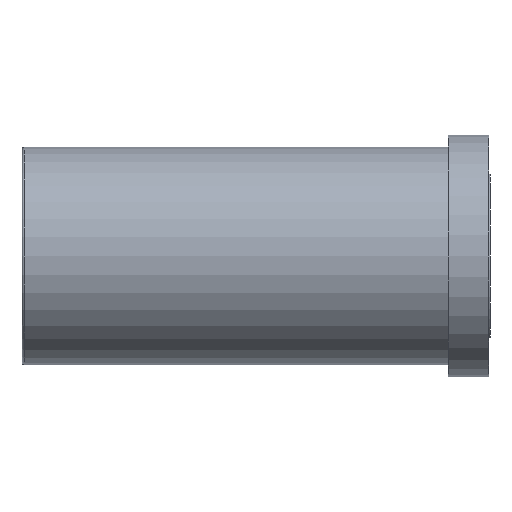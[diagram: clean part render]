
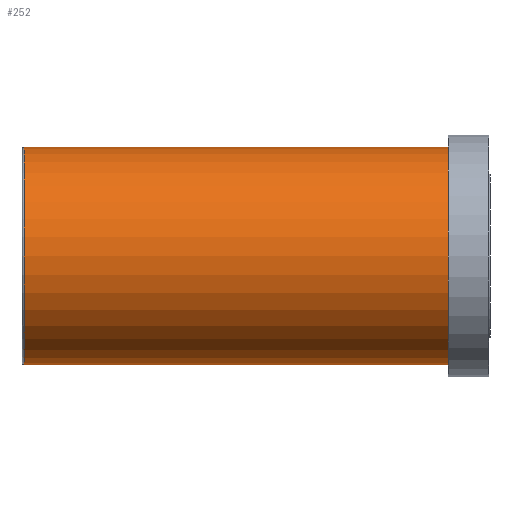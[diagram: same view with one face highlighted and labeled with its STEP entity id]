
A CAD part, left-side view. The second image highlights one B-rep face of the part: STEP entity #252.
In plain terms, the highlighted cylindrical face has radius 27 mm (diameter 54 mm), a partial arc.
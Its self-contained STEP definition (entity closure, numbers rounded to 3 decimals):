
#2 = AXIS2_PLACEMENT_3D ( 'NONE', #185, #278, #423 ) ;
#44 = VERTEX_POINT ( 'NONE', #487 ) ;
#66 = ORIENTED_EDGE ( 'NONE', *, *, #308, .F. ) ;
#67 = CIRCLE ( 'NONE', #458, 27. ) ;
#73 = DIRECTION ( 'NONE',  ( 0., 0., -1. ) ) ;
#75 = CARTESIAN_POINT ( 'NONE',  ( 0., 105.5, 27. ) ) ;
#91 = CIRCLE ( 'NONE', #121, 27. ) ;
#110 = VERTEX_POINT ( 'NONE', #433 ) ;
#121 = AXIS2_PLACEMENT_3D ( 'NONE', #312, #343, #73 ) ;
#125 = VERTEX_POINT ( 'NONE', #263 ) ;
#161 = CARTESIAN_POINT ( 'NONE',  ( 0., 0., 0. ) ) ;
#185 = CARTESIAN_POINT ( 'NONE',  ( 0., 0., 0. ) ) ;
#207 = CYLINDRICAL_SURFACE ( 'NONE', #2, 27. ) ;
#221 = ORIENTED_EDGE ( 'NONE', *, *, #301, .T. ) ;
#236 = LINE ( 'NONE', #281, #475 ) ;
#238 = DIRECTION ( 'NONE',  ( 0., -1., 0. ) ) ;
#244 = VERTEX_POINT ( 'NONE', #75 ) ;
#252 = ADVANCED_FACE ( 'NONE', ( #317 ), #207, .T. ) ;
#263 = CARTESIAN_POINT ( 'NONE',  ( 0., 0., 27. ) ) ;
#278 = DIRECTION ( 'NONE',  ( 0., -1., 0. ) ) ;
#280 = EDGE_LOOP ( 'NONE', ( #348, #322, #221, #66 ) ) ;
#281 = CARTESIAN_POINT ( 'NONE',  ( 0., 0., -27. ) ) ;
#301 = EDGE_CURVE ( 'NONE', #44, #110, #236, .T. ) ;
#308 = EDGE_CURVE ( 'NONE', #125, #110, #67, .T. ) ;
#312 = CARTESIAN_POINT ( 'NONE',  ( 0., 105.5, 0. ) ) ;
#317 = FACE_OUTER_BOUND ( 'NONE', #280, .T. ) ;
#322 = ORIENTED_EDGE ( 'NONE', *, *, #451, .T. ) ;
#343 = DIRECTION ( 'NONE',  ( 0., -1., 0. ) ) ;
#346 = DIRECTION ( 'NONE',  ( 0., -1., 0. ) ) ;
#348 = ORIENTED_EDGE ( 'NONE', *, *, #494, .F. ) ;
#350 = VECTOR ( 'NONE', #346, 1000. ) ;
#357 = LINE ( 'NONE', #373, #350 ) ;
#373 = CARTESIAN_POINT ( 'NONE',  ( 0., 0., 27. ) ) ;
#390 = DIRECTION ( 'NONE',  ( 0., 0., -1. ) ) ;
#423 = DIRECTION ( 'NONE',  ( 0., 0., -1. ) ) ;
#433 = CARTESIAN_POINT ( 'NONE',  ( 0., 0., -27. ) ) ;
#451 = EDGE_CURVE ( 'NONE', #244, #44, #91, .T. ) ;
#458 = AXIS2_PLACEMENT_3D ( 'NONE', #161, #464, #390 ) ;
#464 = DIRECTION ( 'NONE',  ( 0., -1., 0. ) ) ;
#475 = VECTOR ( 'NONE', #238, 1000. ) ;
#487 = CARTESIAN_POINT ( 'NONE',  ( 0., 105.5, -27. ) ) ;
#494 = EDGE_CURVE ( 'NONE', #244, #125, #357, .T. ) ;
